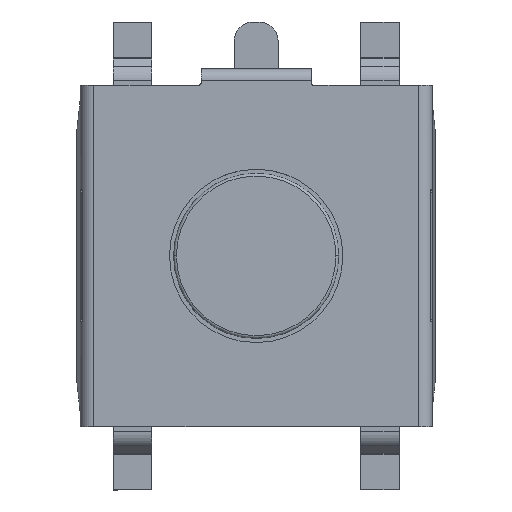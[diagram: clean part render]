
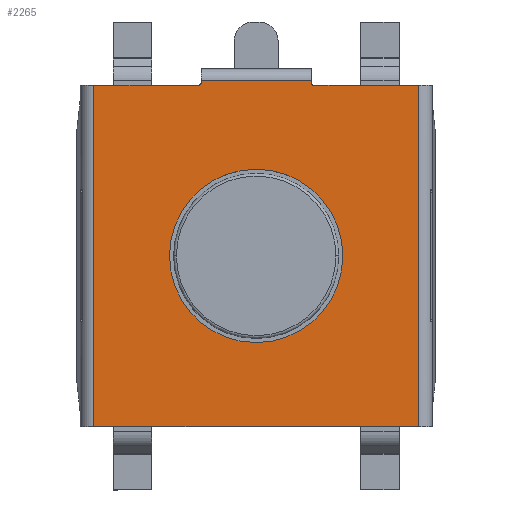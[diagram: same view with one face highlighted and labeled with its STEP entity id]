
A CAD part, top view. The second image highlights one B-rep face of the part: STEP entity #2265.
In plain terms, the highlighted planar face has unit normal (0, 0, 1) as drawn and (0, 0, -1) by its records, which use the part's own axes.
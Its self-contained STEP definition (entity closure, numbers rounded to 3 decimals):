
#266 = EDGE_LOOP ( 'NONE', ( #6799, #3547 ) ) ;
#269 = ORIENTED_EDGE ( 'NONE', *, *, #10465, .T. ) ;
#305 = VECTOR ( 'NONE', #2099, 1000. ) ;
#386 = CARTESIAN_POINT ( 'NONE',  ( -2.95, 3.15, -0.2 ) ) ;
#388 = CARTESIAN_POINT ( 'NONE',  ( -1.05, 3.15, -0.2 ) ) ;
#415 = CARTESIAN_POINT ( 'NONE',  ( -3.85, 3.1, -0.2 ) ) ;
#1055 = VERTEX_POINT ( 'NONE', #5613 ) ;
#1573 = DIRECTION ( 'NONE',  ( -1., 0., 0. ) ) ;
#1679 = CARTESIAN_POINT ( 'NONE',  ( -1.575, 0., -0.2 ) ) ;
#1689 = DIRECTION ( 'NONE',  ( 1., 0., 0. ) ) ;
#1739 = DIRECTION ( 'NONE',  ( 0., 0., 1. ) ) ;
#1789 = CARTESIAN_POINT ( 'NONE',  ( 1.05, 3.1, -0.2 ) ) ;
#1839 = ORIENTED_EDGE ( 'NONE', *, *, #9032, .F. ) ;
#2078 = CARTESIAN_POINT ( 'NONE',  ( 1.05, 3.19, -0.2 ) ) ;
#2099 = DIRECTION ( 'NONE',  ( -1., 0., 0. ) ) ;
#2265 = ADVANCED_FACE ( 'NONE', ( #3363, #9265 ), #10978, .F. ) ;
#2340 = CARTESIAN_POINT ( 'NONE',  ( 1., 4.75, -0.2 ) ) ;
#2448 = DIRECTION ( 'NONE',  ( 0., 1., 0. ) ) ;
#2632 = EDGE_CURVE ( 'NONE', #5087, #8712, #8988, .T. ) ;
#2750 = AXIS2_PLACEMENT_3D ( 'NONE', #5019, #1739, #1689 ) ;
#2819 = VECTOR ( 'NONE', #6152, 1000. ) ;
#3040 = EDGE_LOOP ( 'NONE', ( #9532, #269, #7442, #4644, #1839, #6195, #9838, #5653, #8590, #8728 ) ) ;
#3051 = DIRECTION ( 'NONE',  ( 1., 0., 0. ) ) ;
#3164 = CARTESIAN_POINT ( 'NONE',  ( -1., 3.15, -0.2 ) ) ;
#3363 = FACE_BOUND ( 'NONE', #266, .T. ) ;
#3547 = ORIENTED_EDGE ( 'NONE', *, *, #2632, .T. ) ;
#3794 = DIRECTION ( 'NONE',  ( 0., 0., -1. ) ) ;
#3930 = VECTOR ( 'NONE', #9903, 1000. ) ;
#3990 = LINE ( 'NONE', #10666, #7987 ) ;
#4051 = LINE ( 'NONE', #2340, #4634 ) ;
#4058 = AXIS2_PLACEMENT_3D ( 'NONE', #5876, #5772, #6825 ) ;
#4163 = AXIS2_PLACEMENT_3D ( 'NONE', #9426, #6974, #5200 ) ;
#4417 = CARTESIAN_POINT ( 'NONE',  ( 2.95, 3.15, -0.2 ) ) ;
#4508 = VERTEX_POINT ( 'NONE', #8769 ) ;
#4634 = VECTOR ( 'NONE', #2448, 1000. ) ;
#4644 = ORIENTED_EDGE ( 'NONE', *, *, #10440, .F. ) ;
#4670 = CARTESIAN_POINT ( 'NONE',  ( -1., 3.15, -0.2 ) ) ;
#4839 = CARTESIAN_POINT ( 'NONE',  ( 1.05, 3.15, -0.2 ) ) ;
#4996 = VECTOR ( 'NONE', #10630, 1000. ) ;
#5019 = CARTESIAN_POINT ( 'NONE',  ( 0., 0., -0.2 ) ) ;
#5087 = VERTEX_POINT ( 'NONE', #1679 ) ;
#5166 = VECTOR ( 'NONE', #8967, 1000. ) ;
#5200 = DIRECTION ( 'NONE',  ( 1., 0., 0. ) ) ;
#5217 = EDGE_CURVE ( 'NONE', #1055, #6841, #8171, .T. ) ;
#5613 = CARTESIAN_POINT ( 'NONE',  ( -2.95, -3.1, -0.2 ) ) ;
#5653 = ORIENTED_EDGE ( 'NONE', *, *, #5217, .T. ) ;
#5734 = CARTESIAN_POINT ( 'NONE',  ( 1.05, 3.1, -0.2 ) ) ;
#5772 = DIRECTION ( 'NONE',  ( 0., 0., 1. ) ) ;
#5876 = CARTESIAN_POINT ( 'NONE',  ( 0., 0., -0.2 ) ) ;
#6049 = CARTESIAN_POINT ( 'NONE',  ( 1., 3.15, -0.2 ) ) ;
#6152 = DIRECTION ( 'NONE',  ( 0., 1., 0. ) ) ;
#6195 = ORIENTED_EDGE ( 'NONE', *, *, #8280, .F. ) ;
#6238 = EDGE_CURVE ( 'NONE', #9827, #6260, #7343, .T. ) ;
#6247 = CIRCLE ( 'NONE', #10864, 0.05 ) ;
#6260 = VERTEX_POINT ( 'NONE', #4670 ) ;
#6324 = EDGE_CURVE ( 'NONE', #6260, #8794, #8939, .T. ) ;
#6347 = DIRECTION ( 'NONE',  ( 1., 0., 0. ) ) ;
#6367 = EDGE_CURVE ( 'NONE', #10817, #9835, #4051, .T. ) ;
#6799 = ORIENTED_EDGE ( 'NONE', *, *, #8153, .T. ) ;
#6825 = DIRECTION ( 'NONE',  ( 1., 0., 0. ) ) ;
#6841 = VERTEX_POINT ( 'NONE', #8266 ) ;
#6974 = DIRECTION ( 'NONE',  ( 0., 0., 1. ) ) ;
#7127 = EDGE_CURVE ( 'NONE', #8794, #6841, #9718, .T. ) ;
#7163 = VERTEX_POINT ( 'NONE', #8097 ) ;
#7343 = LINE ( 'NONE', #3164, #5166 ) ;
#7433 = CIRCLE ( 'NONE', #4058, 1.575 ) ;
#7442 = ORIENTED_EDGE ( 'NONE', *, *, #6367, .F. ) ;
#7987 = VECTOR ( 'NONE', #3051, 1000. ) ;
#8010 = AXIS2_PLACEMENT_3D ( 'NONE', #388, #3794, #10173 ) ;
#8014 = DIRECTION ( 'NONE',  ( 0., 0., -1. ) ) ;
#8097 = CARTESIAN_POINT ( 'NONE',  ( 2.95, -3.1, -0.2 ) ) ;
#8153 = EDGE_CURVE ( 'NONE', #8712, #5087, #7433, .T. ) ;
#8171 = LINE ( 'NONE', #386, #3930 ) ;
#8266 = CARTESIAN_POINT ( 'NONE',  ( -2.95, 3.1, -0.2 ) ) ;
#8280 = EDGE_CURVE ( 'NONE', #7163, #4508, #8771, .T. ) ;
#8427 = CARTESIAN_POINT ( 'NONE',  ( -1., 3.19, -0.2 ) ) ;
#8590 = ORIENTED_EDGE ( 'NONE', *, *, #7127, .F. ) ;
#8712 = VERTEX_POINT ( 'NONE', #9599 ) ;
#8728 = ORIENTED_EDGE ( 'NONE', *, *, #6324, .F. ) ;
#8769 = CARTESIAN_POINT ( 'NONE',  ( 2.95, 3.1, -0.2 ) ) ;
#8771 = LINE ( 'NONE', #4417, #2819 ) ;
#8794 = VERTEX_POINT ( 'NONE', #9821 ) ;
#8939 = CIRCLE ( 'NONE', #8010, 0.05 ) ;
#8967 = DIRECTION ( 'NONE',  ( 0., -1., 0. ) ) ;
#8988 = CIRCLE ( 'NONE', #2750, 1.575 ) ;
#9032 = EDGE_CURVE ( 'NONE', #4508, #10607, #9404, .T. ) ;
#9265 = FACE_OUTER_BOUND ( 'NONE', #3040, .T. ) ;
#9340 = EDGE_CURVE ( 'NONE', #1055, #7163, #3990, .T. ) ;
#9404 = LINE ( 'NONE', #1789, #10296 ) ;
#9426 = CARTESIAN_POINT ( 'NONE',  ( 1.05, 3.15, -0.2 ) ) ;
#9532 = ORIENTED_EDGE ( 'NONE', *, *, #6238, .F. ) ;
#9599 = CARTESIAN_POINT ( 'NONE',  ( 1.575, 0., -0.2 ) ) ;
#9696 = LINE ( 'NONE', #2078, #4996 ) ;
#9718 = LINE ( 'NONE', #415, #305 ) ;
#9821 = CARTESIAN_POINT ( 'NONE',  ( -1.05, 3.1, -0.2 ) ) ;
#9827 = VERTEX_POINT ( 'NONE', #8427 ) ;
#9835 = VERTEX_POINT ( 'NONE', #10147 ) ;
#9838 = ORIENTED_EDGE ( 'NONE', *, *, #9340, .F. ) ;
#9903 = DIRECTION ( 'NONE',  ( 0., 1., 0. ) ) ;
#10147 = CARTESIAN_POINT ( 'NONE',  ( 1., 3.19, -0.2 ) ) ;
#10173 = DIRECTION ( 'NONE',  ( -1., 0., 0. ) ) ;
#10296 = VECTOR ( 'NONE', #1573, 1000. ) ;
#10440 = EDGE_CURVE ( 'NONE', #10607, #10817, #6247, .T. ) ;
#10465 = EDGE_CURVE ( 'NONE', #9827, #9835, #9696, .T. ) ;
#10607 = VERTEX_POINT ( 'NONE', #5734 ) ;
#10630 = DIRECTION ( 'NONE',  ( 1., 0., 0. ) ) ;
#10666 = CARTESIAN_POINT ( 'NONE',  ( -3.85, -3.1, -0.2 ) ) ;
#10817 = VERTEX_POINT ( 'NONE', #6049 ) ;
#10864 = AXIS2_PLACEMENT_3D ( 'NONE', #4839, #8014, #6347 ) ;
#10978 = PLANE ( 'NONE',  #4163 ) ;
